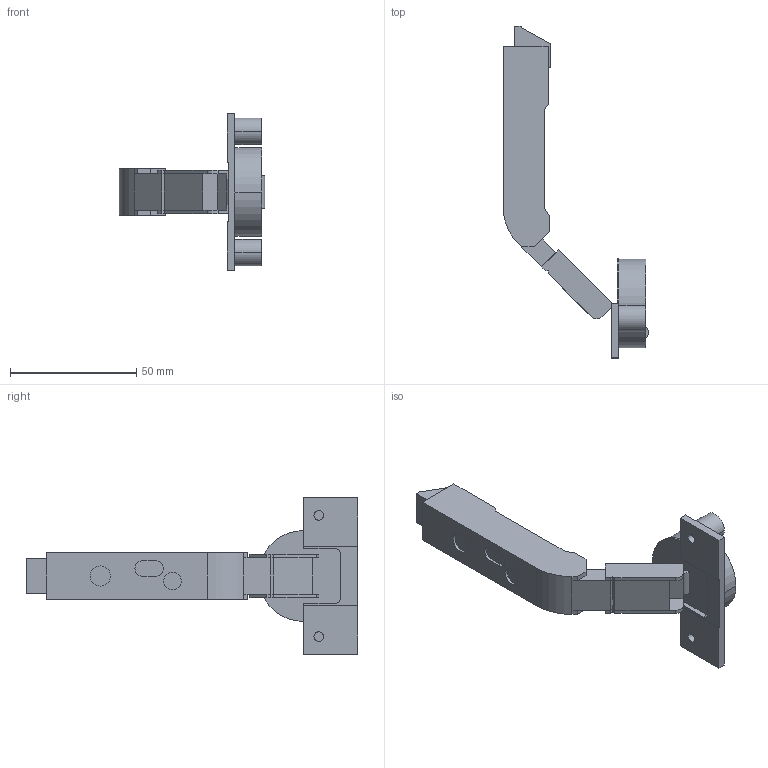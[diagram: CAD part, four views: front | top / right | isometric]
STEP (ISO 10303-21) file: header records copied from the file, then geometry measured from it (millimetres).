
FILE_DESCRIPTION (( 'STEP AP214' ), '1' );
FILE_NAME ('Scharnier T Click-on PCC S_BB, Dübel.step', '2014-03-25T12:09:01', ( '' ), ( '' ), 'SwSTEP 2.0', 'SolidWorks 2013', '' );
FILE_SCHEMA (( 'AUTOMOTIVE_DESIGN' ));
Length unit declared in the file: millimetre
Products named in the file (1): Scharnier T Click-on PCC S_BB, Dübel
Bounding box: 57.59 x 131.39 x 62 mm (x, y, z)
Volume: 45634.5 mm3; surface area: 14860.9 mm2
Topology: 1 solids, 1 shells, 102 faces, 254 edges, 164 vertices
Faces by surface type: plane 76, cylinder 26
Entity records: 3036 total; most frequent: CARTESIAN_POINT 521, DIRECTION 512, ORIENTED_EDGE 508, EDGE_CURVE 254, LINE 202, VECTOR 202, VERTEX_POINT 164, AXIS2_PLACEMENT_3D 155
